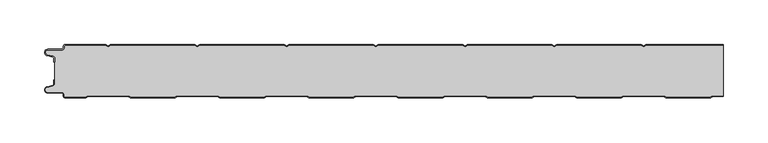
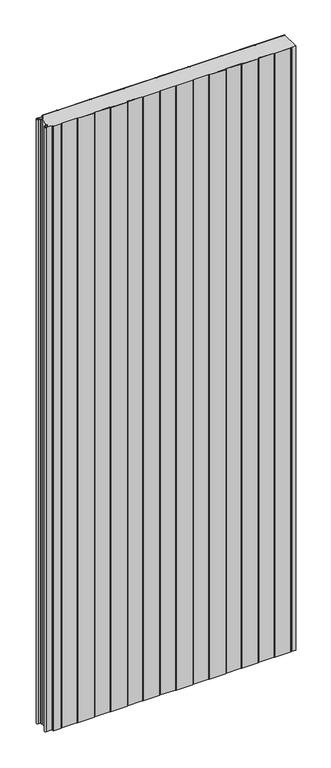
"""IFC4 building model written with IfcOpenShell, lengths in millimetres: plate geometry, PM1_Curtain-Panel_Perfil-Estándar : ACH_PM1_Panel-Acústico-Sectorización_60M."""

import ifcopenshell
import ifcopenshell.guid

model = None  # the IFC model being written
_history = None  # IfcOwnerHistory: only IFC2X3 demands one
_inside = {}  # id of a spatial element -> (the spatial element, [elements in it])
_under = {}  # id of a project, library or spatial element -> (it, [spatial elements below it])
_declared = {}  # id of a project -> (the project, [libraries it declares])
_typed = {}  # id of a type object -> (the type object, [elements of that type])
_made_of = {}  # id of a material, layer set ... -> (it, [elements and type objects made of it])


def new_model(schema):
    """Start an empty IFC model of exactly this schema.

    Asked for "IFC4X3", IfcOpenShell would pick the latest addendum, in which some entities
    have other attributes; the version numbers below select the first issue.
    IFC2X3 requires an IfcOwnerHistory on every rooted entity: one is made here for all.
    """
    global model, _history
    if schema == "IFC4X3":
        model = ifcopenshell.file(schema_version=(4, 3, 0, 0))
    else:
        model = ifcopenshell.file(schema=schema)
    _inside.clear()
    _under.clear()
    _declared.clear()
    _typed.clear()
    _made_of.clear()
    _history = None
    if model.schema == "IFC2X3":
        org = make("IfcOrganization", Name="unknown")
        user = make(
            "IfcPersonAndOrganization",
            ThePerson=make("IfcPerson", FamilyName="unknown"),
            TheOrganization=org,
        )
        app = make(
            "IfcApplication",
            ApplicationDeveloper=org,
            Version="unknown",
            ApplicationFullName="unknown",
            ApplicationIdentifier="unknown",
        )
        _history = make(
            "IfcOwnerHistory",
            OwningUser=user,
            OwningApplication=app,
            ChangeAction="ADDED",
            CreationDate=0,
        )
    return model


def make(cls, **values):
    """One entity of the class cls with the attributes given. An attribute that is None is left unset."""
    return model.create_entity(
        cls, **{name: value for name, value in values.items() if value is not None}
    )


def rooted(cls, **values):
    """An entity with a GlobalId (a new one), such as an element, a storey or a relation."""
    return make(cls, GlobalId=ifcopenshell.guid.new(), OwnerHistory=_history, **values)


def si_unit(unit_type, name, prefix=None):
    """IfcSIUnit, for example si_unit("LENGTHUNIT", "METRE", prefix="MILLI")."""
    return make("IfcSIUnit", UnitType=unit_type, Prefix=prefix, Name=name)


def assignment(units):
    """IfcUnitAssignment: the units of a project."""
    return None if units is None else make("IfcUnitAssignment", Units=units)


def point(xyz):
    """IfcCartesianPoint."""
    return None if xyz is None else make("IfcCartesianPoint", Coordinates=xyz)


def direction(xyz):
    """IfcDirection."""
    return None if xyz is None else make("IfcDirection", DirectionRatios=xyz)


def frame(location, z_axis=None, x_axis=None):
    """IfcAxis2Placement3D, a coordinate frame: its origin and axes. An axis left out is left unset."""
    return make(
        "IfcAxis2Placement3D",
        Location=point(location),
        Axis=direction(z_axis),
        RefDirection=direction(x_axis),
    )


def frame_2d(location, x_axis=None):
    """IfcAxis2Placement2D, a coordinate frame in the plane: its origin and x axis."""
    return make(
        "IfcAxis2Placement2D", Location=point(location), RefDirection=direction(x_axis)
    )


def origin():
    """The frame at (0, 0, 0) with its axes left unset."""
    return frame((0.0, 0.0, 0.0))


def origin_with_axes():
    """The frame at (0, 0, 0) with the z axis (0, 0, 1) and the x axis (1, 0, 0) written out."""
    return frame((0.0, 0.0, 0.0), z_axis=(0.0, 0.0, 1.0), x_axis=(1.0, 0.0, 0.0))


def place(relative_to, where):
    """IfcLocalPlacement: puts the frame where relative to a parent placement (None: the world)."""
    return make(
        "IfcLocalPlacement", PlacementRelTo=relative_to, RelativePlacement=where
    )


def context(
    kind, dimensions, precision=None, world=None, true_north=None, identifier=None
):
    """IfcGeometricRepresentationContext, for example the 3D "Model" context."""
    return make(
        "IfcGeometricRepresentationContext",
        ContextIdentifier=identifier,
        ContextType=kind,
        CoordinateSpaceDimension=dimensions,
        Precision=precision,
        WorldCoordinateSystem=world,
        TrueNorth=true_north,
    )


def project(units=None, contexts=None):
    """IfcProject with its units and contexts."""
    return rooted(
        "IfcProject",
        Name="project",
        RepresentationContexts=contexts,
        UnitsInContext=assignment(units),
    )


def spatial(cls, under=None, at=None, **own):
    """A site, building, storey or space (cls), placed at a placement, below another one or the project."""
    s = rooted(cls, ObjectPlacement=at, **own)
    if under is not None:
        _under.setdefault(under.id(), (under, []))[1].append(s)
    return s


def polyline(points):
    """IfcPolyline through the points."""
    return make("IfcPolyline", Points=[point(p) for p in points])


def circle_curve(where, radius):
    """IfcCircle in the frame where."""
    return make("IfcCircle", Position=where, Radius=radius)


def trimmed(basis, trim1, trim2, sense, master):
    """IfcTrimmedCurve: the piece of a basis curve between two trims."""
    return make(
        "IfcTrimmedCurve",
        BasisCurve=basis,
        Trim1=trim1,
        Trim2=trim2,
        SenseAgreement=sense,
        MasterRepresentation=master,
    )


def segment(curve, same_sense, transition):
    """IfcCompositeCurveSegment."""
    return make(
        "IfcCompositeCurveSegment",
        Transition=transition,
        SameSense=same_sense,
        ParentCurve=curve,
    )


def composite_curve(segments, self_intersect=None):
    """IfcCompositeCurve: segments joined end to end."""
    return make("IfcCompositeCurve", Segments=segments, SelfIntersect=self_intersect)


def outline(outer, holes=None, kind="AREA"):
    """IfcArbitraryClosedProfileDef: a profile drawn as a closed curve; with holes, ...WithVoids."""
    if holes is None:
        return make("IfcArbitraryClosedProfileDef", ProfileType=kind, OuterCurve=outer)
    return make(
        "IfcArbitraryProfileDefWithVoids",
        ProfileType=kind,
        OuterCurve=outer,
        InnerCurves=holes,
    )


def extrude(swept, where, along, depth):
    """IfcExtrudedAreaSolid: the profile swept, set in the frame where, extruded along a direction by depth."""
    return make(
        "IfcExtrudedAreaSolid",
        SweptArea=swept,
        Position=where,
        ExtrudedDirection=direction(along),
        Depth=depth,
    )


def shape(context_of_items, identifier, shape_type, items):
    """IfcShapeRepresentation: the items that make up one representation, for example the "Body"."""
    return make(
        "IfcShapeRepresentation",
        ContextOfItems=context_of_items,
        RepresentationIdentifier=identifier,
        RepresentationType=shape_type,
        Items=items,
    )


def source(mapping_origin, context_of_items, identifier, shape_type, items):
    """IfcRepresentationMap: a shape defined once, which mapped items show again and again."""
    return make(
        "IfcRepresentationMap",
        MappingOrigin=mapping_origin,
        MappedRepresentation=shape(context_of_items, identifier, shape_type, items),
    )


def transform(
    local_origin,
    x_axis=None,
    y_axis=None,
    z_axis=None,
    scale=None,
    scale2=None,
    scale3=None,
    uniform=True,
):
    """IfcCartesianTransformationOperator3D, or its non-uniform kind. x_axis, y_axis, z_axis: its Axis1, 2, 3."""
    if uniform:
        return make(
            "IfcCartesianTransformationOperator3D",
            Axis1=direction(x_axis),
            Axis2=direction(y_axis),
            LocalOrigin=point(local_origin),
            Scale=scale,
            Axis3=direction(z_axis),
        )
    return make(
        "IfcCartesianTransformationOperator3DnonUniform",
        Axis1=direction(x_axis),
        Axis2=direction(y_axis),
        LocalOrigin=point(local_origin),
        Scale=scale,
        Axis3=direction(z_axis),
        Scale2=scale2,
        Scale3=scale3,
    )


def mapped(mapping_source, mapping_target):
    """IfcMappedItem: shows the shape of a source again, moved by a transform."""
    return make(
        "IfcMappedItem", MappingSource=mapping_source, MappingTarget=mapping_target
    )


def made_of(thing, what):
    """Note that an element or type object is made of a material, layer set ...; save() writes the relation."""
    if what is not None:
        _made_of.setdefault(what.id(), (what, []))[1].append(thing)
    return thing


def element(
    cls,
    number,
    at=None,
    inside=None,
    cuts=None,
    type_object=None,
    material=None,
    context=None,
    identifier="Body",
    shape_type=None,
    held_by="IfcProductDefinitionShape",
    body=None,
    shapes=None,
    **own,
):
    """One element of the class cls, such as IfcWall. Its Tag is "e" and its number.

    at: its placement. inside: the storey or other place that contains it. cuts: it is an
    opening in that element (IfcRelVoidsElement). A single representation is given by context,
    identifier, shape_type and body (its items); several are given by shapes. held_by: the class
    of the entity that holds the representations. save() writes the other relations.
    """
    e = rooted(cls, Tag="e%d" % number, ObjectPlacement=at, **own)
    if body is not None:
        shapes = [shape(context, identifier, shape_type, body)]
    if shapes is not None:
        e.Representation = make(held_by, Representations=shapes)
    if inside is not None:
        _inside.setdefault(inside.id(), (inside, []))[1].append(e)
    if cuts is not None:
        rooted(
            "IfcRelVoidsElement", RelatingBuildingElement=cuts, RelatedOpeningElement=e
        )
    if type_object is not None:
        _typed.setdefault(type_object.id(), (type_object, []))[1].append(e)
    return made_of(e, material)


def aggregate(whole, parts):
    """IfcRelAggregates: a whole, such as a stair, and the parts it consists of."""
    return rooted("IfcRelAggregates", RelatingObject=whole, RelatedObjects=parts)


def save(model, path):
    """Write the relations noted so far, then the file.

    IfcRelAggregates (storeys below a building ...), IfcRelContainedInSpatialStructure (elements
    in a storey), IfcRelDefinesByType, IfcRelAssociatesMaterial and IfcRelDeclares: one each for
    every whole, place, type object, material and project.
    """
    for whole, parts in _under.values():
        aggregate(whole, parts)
    for where, things in _inside.values():
        rooted(
            "IfcRelContainedInSpatialStructure",
            RelatedElements=things,
            RelatingStructure=where,
        )
    for kind, things in _typed.values():
        rooted("IfcRelDefinesByType", RelatedObjects=things, RelatingType=kind)
    for what, things in _made_of.values():
        rooted("IfcRelAssociatesMaterial", RelatedObjects=things, RelatingMaterial=what)
    for by, libraries in _declared.values():
        rooted("IfcRelDeclares", RelatingContext=by, RelatedDefinitions=libraries)
    model.write(path)


def plate_6e56c0e7(model_context):
    return source(origin(), model_context, "Body", "SweptSolid", [
        extrude(outline(composite_curve([segment(trimmed(circle_curve(frame_2d((-377.0119739, -15.878557)), 2.0), [point((-375.0119739, -15.878557))], [point((-376.5620718, -13.9298169))], True, "CARTESIAN"), True, "CONTINUOUS"), segment(polyline([(-376.5620718, -13.9298169), (-382.7217978, -12.507732)]), True, "CONTINUOUS"), segment(trimmed(circle_curve(frame_2d((-381.9119739, -9.0)), 3.6), [point((-382.7217978, -12.507732))], [point((-381.9119739, -5.4))], False, "CARTESIAN"), True, "CONTINUOUS"), segment(polyline([(-381.9119739, -5.4), (-366.4119739, -5.4)]), True, "CONTINUOUS"), segment(trimmed(circle_curve(frame_2d((-366.4119739, -3.4)), 2.0), [point((-366.4119739, -5.4))], [point((-364.4119739, -3.4))], True, "CARTESIAN"), True, "CONTINUOUS"), segment(polyline([(-364.4119739, -3.4), (-364.4119739, -2.0)]), True, "CONTINUOUS"), segment(trimmed(circle_curve(frame_2d((-362.4119739, -2.0)), 2.0), [point((-364.4119739, -2.0))], [point((-362.4119739, 0.0))], False, "CARTESIAN"), True, "CONTINUOUS"), segment(polyline([(-362.4119739, 0.0), (-317.1119734, 0.0), (-314.4119739, -1.5588455), (-311.7119745, 0.0), (-217.1119734, 0.0), (-214.4119739, -1.5588455), (-211.7119745, 0.0), (-117.1119734, 0.0), (-114.4119739, -1.5588455), (-111.7119745, 0.0), (-17.1119734, 0.0), (-14.4119739, -1.5588455), (-11.7119745, 0.0), (82.8880266, 0.0), (85.5880261, -1.5588455), (88.2880255, 0.0), (182.8880266, 0.0), (185.5880261, -1.5588455), (188.2880255, 0.0), (282.8880266, 0.0), (285.5880261, -1.5588455), (288.2880255, 0.0), (375.0119739, 0.0), (375.0119739, -0.8), (288.5023849, -0.8), (285.5880261, -2.482606), (282.6736672, -0.8), (188.5023849, -0.8), (185.5880261, -2.482606), (182.6736672, -0.8), (88.5023849, -0.8), (85.5880261, -2.482606), (82.6736672, -0.8), (-11.4976151, -0.8), (-14.4119739, -2.482606), (-17.3263328, -0.8), (-111.4976151, -0.8), (-114.4119739, -2.482606), (-117.3263328, -0.8), (-211.4976151, -0.8), (-214.4119739, -2.482606), (-217.3263328, -0.8), (-311.4976151, -0.8), (-314.4119739, -2.482606), (-317.3263328, -0.8), (-362.4119739, -0.8)]), True, "CONTINUOUS"), segment(trimmed(circle_curve(frame_2d((-362.4119739, -2.0)), 1.2), [point((-362.4119739, -0.8))], [point((-363.6119739, -2.0))], True, "CARTESIAN"), True, "CONTINUOUS"), segment(polyline([(-363.6119739, -2.0), (-363.6119739, -3.4)]), True, "CONTINUOUS"), segment(trimmed(circle_curve(frame_2d((-366.4119739, -3.4)), 2.8), [point((-363.6119739, -3.4))], [point((-366.4119739, -6.2))], False, "CARTESIAN"), True, "CONTINUOUS"), segment(polyline([(-366.4119739, -6.2), (-381.9119739, -6.2)]), True, "CONTINUOUS"), segment(trimmed(circle_curve(frame_2d((-381.9119739, -9.0)), 2.8), [point((-381.9119739, -6.2))], [point((-382.541837, -11.7282362))], True, "CARTESIAN"), True, "CONTINUOUS"), segment(polyline([(-382.541837, -11.7282362), (-376.3821109, -13.150321)]), True, "CONTINUOUS"), segment(trimmed(circle_curve(frame_2d((-377.0119739, -15.878557)), 2.8), [point((-376.3821109, -13.150321))], [point((-374.2119739, -15.878557))], False, "CARTESIAN"), True, "CONTINUOUS"), segment(polyline([(-374.2119739, -15.878557), (-374.2119739, -20.0), (-375.0119739, -20.0), (-375.0119739, -15.878557)]), True, "CONTINUOUS")], self_intersect=False)), origin_with_axes(), (0.0, 0.0, 1.0), 1945.7507136),
        extrude(outline(composite_curve([segment(polyline([(-374.2119739, -44.121443), (-374.2119739, -15.8785573)]), True, "CONTINUOUS"), segment(trimmed(circle_curve(frame_2d((-377.0119739, -15.8785573)), 2.8), [point((-374.2119739, -15.8785573))], [point((-376.3821109, -13.1503212))], True, "CARTESIAN"), True, "CONTINUOUS"), segment(polyline([(-376.3821109, -13.1503212), (-382.541837, -11.7282362)]), True, "CONTINUOUS"), segment(trimmed(circle_curve(frame_2d((-381.911974, -9.0)), 2.8), [point((-382.541837, -11.7282362))], [point((-381.911974, -6.2))], False, "CARTESIAN"), True, "CONTINUOUS"), segment(polyline([(-381.911974, -6.2), (-366.411974, -6.2)]), True, "CONTINUOUS"), segment(trimmed(circle_curve(frame_2d((-366.411974, -3.4)), 2.8), [point((-366.411974, -6.2))], [point((-363.611974, -3.4))], True, "CARTESIAN"), True, "CONTINUOUS"), segment(polyline([(-363.611974, -3.4), (-363.611974, -2.0)]), True, "CONTINUOUS"), segment(trimmed(circle_curve(frame_2d((-362.411974, -2.0)), 1.2), [point((-363.611974, -2.0))], [point((-362.411974, -0.8))], False, "CARTESIAN"), True, "CONTINUOUS"), segment(polyline([(-362.411974, -0.8), (-317.3263329, -0.8), (-314.411974, -2.482606), (-311.4976152, -0.8), (-217.3263329, -0.8), (-214.411974, -2.482606), (-211.4976152, -0.8), (-117.3263329, -0.8), (-114.411974, -2.482606), (-111.4976152, -0.8), (-17.3263329, -0.8), (-14.411974, -2.482606), (-11.4976152, -0.8), (82.6736671, -0.8), (85.588026, -2.482606), (88.5023848, -0.8), (182.6736671, -0.8), (185.588026, -2.482606), (188.5023848, -0.8), (282.6736671, -0.8), (285.588026, -2.482606), (288.5023848, -0.8), (375.0119739, -0.8), (375.0119739, -57.7), (362.9717445, -57.7), (360.3736669, -59.2), (310.7985382, -59.2), (308.2004606, -57.7), (262.9717445, -57.7), (260.3736669, -59.2), (210.7985382, -59.2), (208.2004606, -57.7), (162.9717445, -57.7), (160.3736669, -59.2), (110.7985382, -59.2), (108.2004606, -57.7), (62.9717445, -57.7), (60.3736669, -59.2), (10.7985382, -59.2), (8.2004606, -57.7), (-37.0282555, -57.7), (-39.6263331, -59.2), (-89.2014618, -59.2), (-91.7995394, -57.7), (-137.0282555, -57.7), (-139.6263331, -59.2), (-189.2014618, -59.2), (-191.7995394, -57.7), (-237.0282555, -57.7), (-239.6263331, -59.2), (-289.2014618, -59.2), (-291.7995394, -57.7), (-337.0282555, -57.7), (-339.6263331, -59.2), (-362.4119739, -59.2)]), True, "CONTINUOUS"), segment(trimmed(circle_curve(frame_2d((-362.4119739, -58.0)), 1.2), [point((-362.4119739, -59.2))], [point((-363.6119739, -58.0))], False, "CARTESIAN"), True, "CONTINUOUS"), segment(polyline([(-363.6119739, -58.0), (-363.6119739, -56.5999998)]), True, "CONTINUOUS"), segment(trimmed(circle_curve(frame_2d((-366.4119739, -56.5999998)), 2.8), [point((-363.6119739, -56.5999998))], [point((-366.4119739, -53.7999998))], True, "CARTESIAN"), True, "CONTINUOUS"), segment(polyline([(-366.4119739, -53.7999998), (-381.9119739, -53.7999998)]), True, "CONTINUOUS"), segment(trimmed(circle_curve(frame_2d((-381.9119739, -51.0)), 2.7999998), [point((-381.9119739, -53.7999998))], [point((-382.5418369, -48.271764))], False, "CARTESIAN"), True, "CONTINUOUS"), segment(polyline([(-382.5418369, -48.271764), (-376.3821109, -46.8496792)]), True, "CONTINUOUS"), segment(trimmed(circle_curve(frame_2d((-377.0119739, -44.121443)), 2.8), [point((-376.3821109, -46.8496792))], [point((-374.2119739, -44.121443))], True, "CARTESIAN"), True, "CONTINUOUS")], self_intersect=False)), origin_with_axes(), (0.0, 0.0, 1.0), 1945.7507136),
        extrude(outline(composite_curve([segment(trimmed(circle_curve(frame_2d((-362.4119739, -58.0)), 2.0), [point((-362.4119739, -60.0))], [point((-364.4119739, -58.0))], False, "CARTESIAN"), True, "CONTINUOUS"), segment(polyline([(-364.4119739, -58.0), (-364.4119739, -56.6)]), True, "CONTINUOUS"), segment(trimmed(circle_curve(frame_2d((-366.4119739, -56.6)), 2.0), [point((-364.4119739, -56.6))], [point((-366.4119739, -54.6))], True, "CARTESIAN"), True, "CONTINUOUS"), segment(polyline([(-366.4119739, -54.6), (-381.9119739, -54.6)]), True, "CONTINUOUS"), segment(trimmed(circle_curve(frame_2d((-381.9119739, -51.0)), 3.6), [point((-381.9119739, -54.6))], [point((-382.7217979, -47.4922678))], False, "CARTESIAN"), True, "CONTINUOUS"), segment(polyline([(-382.7217979, -47.4922678), (-376.5620718, -46.070183)]), True, "CONTINUOUS"), segment(trimmed(circle_curve(frame_2d((-377.0119739, -44.121443)), 2.0), [point((-376.5620718, -46.070183))], [point((-375.0119739, -44.121443))], True, "CARTESIAN"), True, "CONTINUOUS"), segment(polyline([(-375.0119739, -44.121443), (-375.0119739, -40.0), (-374.2119739, -40.0), (-374.2119739, -44.121443)]), True, "CONTINUOUS"), segment(trimmed(circle_curve(frame_2d((-377.0119739, -44.121443)), 2.8), [point((-374.2119739, -44.121443))], [point((-376.3821109, -46.8496792))], False, "CARTESIAN"), True, "CONTINUOUS"), segment(polyline([(-376.3821109, -46.8496792), (-382.5418369, -48.271764)]), True, "CONTINUOUS"), segment(trimmed(circle_curve(frame_2d((-381.9119739, -51.0)), 2.8), [point((-382.5418369, -48.271764))], [point((-381.9119739, -53.8))], True, "CARTESIAN"), True, "CONTINUOUS"), segment(polyline([(-381.9119739, -53.8), (-366.4119739, -53.8)]), True, "CONTINUOUS"), segment(trimmed(circle_curve(frame_2d((-366.4119739, -56.6)), 2.8), [point((-366.4119739, -53.8))], [point((-363.6119739, -56.6))], False, "CARTESIAN"), True, "CONTINUOUS"), segment(polyline([(-363.6119739, -56.6), (-363.6119739, -58.0)]), True, "CONTINUOUS"), segment(trimmed(circle_curve(frame_2d((-362.4119739, -58.0)), 1.2), [point((-363.6119739, -58.0))], [point((-362.4119739, -59.2))], True, "CARTESIAN"), True, "CONTINUOUS"), segment(polyline([(-362.4119739, -59.2), (-339.6263331, -59.2), (-337.0282555, -57.7), (-291.7995394, -57.7), (-289.2014618, -59.2), (-239.6263331, -59.2), (-237.0282555, -57.7), (-191.7995394, -57.7), (-189.2014618, -59.2), (-139.6263331, -59.2), (-137.0282555, -57.7), (-91.7995394, -57.7), (-89.2014618, -59.2), (-39.6263331, -59.2), (-37.0282555, -57.7), (8.2004606, -57.7), (10.7985382, -59.2), (60.3736669, -59.2), (62.9717445, -57.7), (108.2004606, -57.7), (110.7985382, -59.2), (160.3736669, -59.2), (162.9717445, -57.7), (208.2004606, -57.7), (210.7985382, -59.2), (260.3736669, -59.2), (262.9717445, -57.7), (308.2004606, -57.7), (310.7985382, -59.2), (360.3736669, -59.2), (362.9717445, -57.7), (375.0119739, -57.7), (375.0119739, -58.5), (363.1861037, -58.5), (360.5880261, -60.0), (310.584179, -60.0), (307.9861014, -58.5), (263.1861037, -58.5), (260.5880261, -60.0), (210.584179, -60.0), (207.9861014, -58.5), (163.1861037, -58.5), (160.5880261, -60.0), (110.584179, -60.0), (107.9861014, -58.5), (63.1861037, -58.5), (60.5880261, -60.0), (10.584179, -60.0), (7.9861014, -58.5), (-36.8138963, -58.5), (-39.4119739, -60.0), (-89.415821, -60.0), (-92.0138986, -58.5), (-136.8138963, -58.5), (-139.4119739, -60.0), (-189.415821, -60.0), (-192.0138986, -58.5), (-236.8138963, -58.5), (-239.4119739, -60.0), (-289.415821, -60.0), (-292.0138986, -58.5), (-336.8138963, -58.5), (-339.4119739, -60.0), (-362.4119739, -60.0)]), True, "CONTINUOUS")], self_intersect=False)), origin_with_axes(), (0.0, 0.0, 1.0), 1945.7507136),
    ])


if __name__ == "__main__":
    model = new_model("IFC4")
    model_context = context("Model", 3, world=origin())
    ifc_project = project(units=[si_unit("LENGTHUNIT", "METRE", prefix="MILLI")], contexts=[model_context])
    site = spatial("IfcSite", under=ifc_project)
    building = spatial("IfcBuilding", under=site)
    placement = place(None, origin())
    plate_shape = plate_6e56c0e7(model_context)
    element("IfcPlate", 1, ObjectType="PM1_Curtain-Panel_Perfil-Estándar : ACH_PM1_Panel-Acústico-Sectorización_60M", at=placement, inside=building, context=model_context, shape_type="MappedRepresentation", body=[
        mapped(plate_shape, transform((0.0, 0.0, 0.0), x_axis=(1.0, 0.0, 0.0), y_axis=(0.0, 1.0, 0.0), z_axis=(0.0, 0.0, 1.0))),
    ])
    save(model, "model.ifc")
